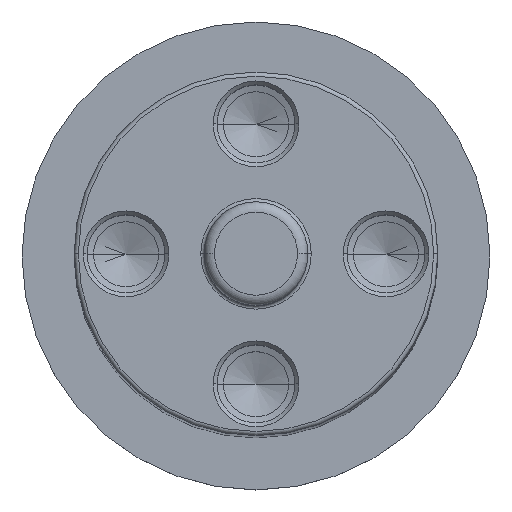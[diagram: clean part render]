
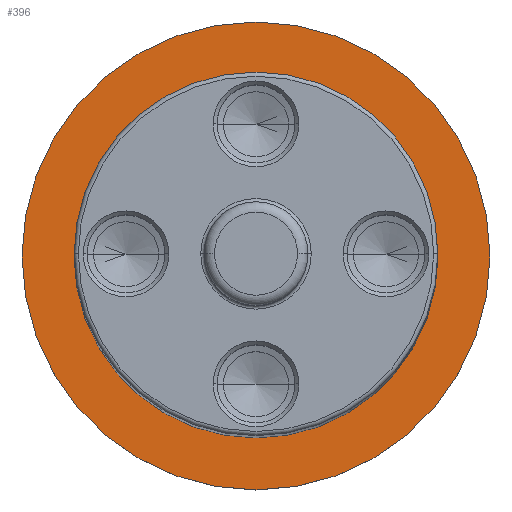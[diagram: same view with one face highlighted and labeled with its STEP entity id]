
A CAD part, top view. The second image highlights one B-rep face of the part: STEP entity #396.
In plain terms, the highlighted planar face has unit normal (0, 0, 1).
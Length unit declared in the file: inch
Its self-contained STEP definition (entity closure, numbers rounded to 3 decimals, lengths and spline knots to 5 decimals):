
#266 = ORIENTED_EDGE ( 'NONE', *, *, #273, .T. ) ;
#273 = EDGE_CURVE ( 'NONE', #394, #335, #1292, .T. ) ;
#276 = EDGE_CURVE ( 'NONE', #291, #374, #1387, .T. ) ;
#283 = ORIENTED_EDGE ( 'NONE', *, *, #293, .T. ) ;
#291 = VERTEX_POINT ( 'NONE', #1222 ) ;
#292 = EDGE_LOOP ( 'NONE', ( #266, #283 ) ) ;
#293 = EDGE_CURVE ( 'NONE', #335, #394, #1218, .T. ) ;
#335 = VERTEX_POINT ( 'NONE', #1266 ) ;
#336 = EDGE_LOOP ( 'NONE', ( #343, #404 ) ) ;
#343 = ORIENTED_EDGE ( 'NONE', *, *, #344, .F. ) ;
#344 = EDGE_CURVE ( 'NONE', #374, #291, #1246, .T. ) ;
#374 = VERTEX_POINT ( 'NONE', #1441 ) ;
#394 = VERTEX_POINT ( 'NONE', #1486 ) ;
#396 = ADVANCED_FACE ( 'NONE', ( #1396, #1475 ), #1501, .T. ) ;
#404 = ORIENTED_EDGE ( 'NONE', *, *, #276, .F. ) ;
#1122 = CARTESIAN_POINT ( 'NONE',  ( 0., 0., -5.875 ) ) ;
#1136 = AXIS2_PLACEMENT_3D ( 'NONE', #1122, #1183, #1182 ) ;
#1182 = DIRECTION ( 'NONE',  ( 1., 0., 0. ) ) ;
#1183 = DIRECTION ( 'NONE',  ( 0., 0., 1. ) ) ;
#1215 = DIRECTION ( 'NONE',  ( 1., 0., 0. ) ) ;
#1216 = DIRECTION ( 'NONE',  ( 0., 0., 1. ) ) ;
#1217 = AXIS2_PLACEMENT_3D ( 'NONE', #1366, #1216, #1215 ) ;
#1218 = CIRCLE ( 'NONE', #1217, 1.125 ) ;
#1222 = CARTESIAN_POINT ( 'NONE',  ( 0.875, 0., -5.875 ) ) ;
#1246 = CIRCLE ( 'NONE', #1136, 0.875 ) ;
#1266 = CARTESIAN_POINT ( 'NONE',  ( 1.125, 0., -5.875 ) ) ;
#1292 = CIRCLE ( 'NONE', #1385, 1.125 ) ;
#1366 = CARTESIAN_POINT ( 'NONE',  ( 0., 0., -5.875 ) ) ;
#1379 = DIRECTION ( 'NONE',  ( 1., 0., 0. ) ) ;
#1380 = DIRECTION ( 'NONE',  ( 0., 0., 1. ) ) ;
#1381 = CARTESIAN_POINT ( 'NONE',  ( 0., 0., -5.875 ) ) ;
#1383 = AXIS2_PLACEMENT_3D ( 'NONE', #1381, #1380, #1379 ) ;
#1384 = DIRECTION ( 'NONE',  ( 1., 0., 0. ) ) ;
#1385 = AXIS2_PLACEMENT_3D ( 'NONE', #1389, #1390, #1384 ) ;
#1387 = CIRCLE ( 'NONE', #1383, 0.875 ) ;
#1389 = CARTESIAN_POINT ( 'NONE',  ( 0., 0., -5.875 ) ) ;
#1390 = DIRECTION ( 'NONE',  ( 0., 0., 1. ) ) ;
#1396 = FACE_OUTER_BOUND ( 'NONE', #292, .T. ) ;
#1441 = CARTESIAN_POINT ( 'NONE',  ( -0.875, 0., -5.875 ) ) ;
#1466 = DIRECTION ( 'NONE',  ( 1., 0., 0. ) ) ;
#1467 = DIRECTION ( 'NONE',  ( 0., 0., 1. ) ) ;
#1468 = CARTESIAN_POINT ( 'NONE',  ( 0., 0., -5.875 ) ) ;
#1475 = FACE_BOUND ( 'NONE', #336, .T. ) ;
#1486 = CARTESIAN_POINT ( 'NONE',  ( -1.125, 0., -5.875 ) ) ;
#1501 = PLANE ( 'NONE',  #1538 ) ;
#1538 = AXIS2_PLACEMENT_3D ( 'NONE', #1468, #1467, #1466 ) ;
